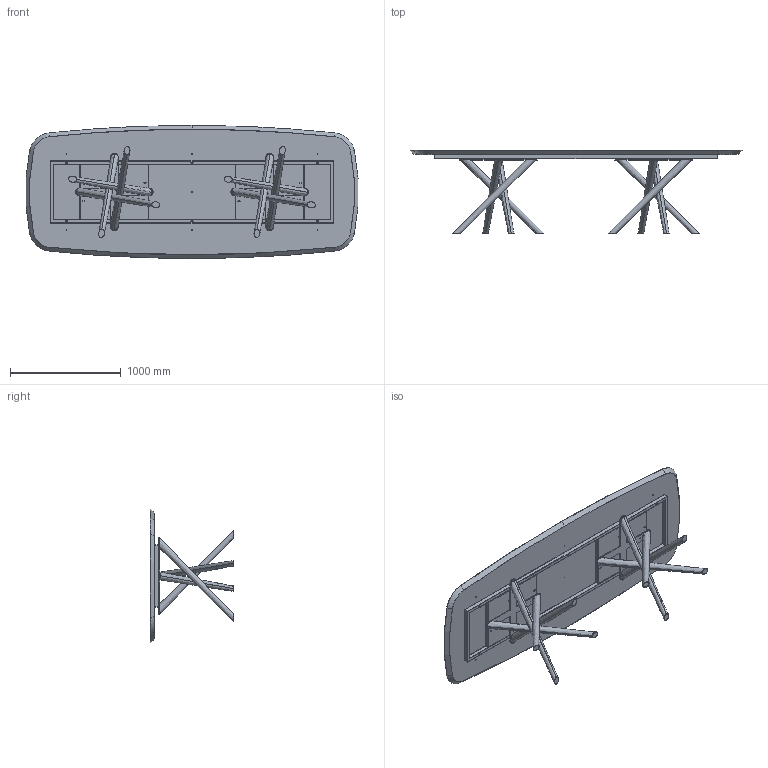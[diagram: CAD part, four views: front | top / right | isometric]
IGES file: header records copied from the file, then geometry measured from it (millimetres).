
Start section: SolidWorks IGES file using analytic representation for surfaces
Global section: file name: Y:\eforma\TECNICO\SOLIDWORKS\E-FORMA\1-TAVOLI\BALY\02 parts\BA44W.IGS; native system: SolidWorks 2022; preprocessor: SolidWorks 2022; author: eforma.tech; date: 240808.075433; units: millimetre
Bounding box: 2991.72 x 753 x 1200 mm (x, y, z)
Volume: 132227865.6 mm3; surface area: 13245414.4 mm2
Topology: 22 solids, 22 shells, 655 faces, 1604 edges, 968 vertices
Faces by surface type: revolution 369, plane 270, bspline 16
